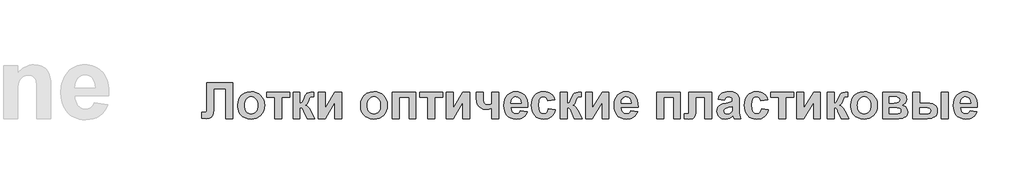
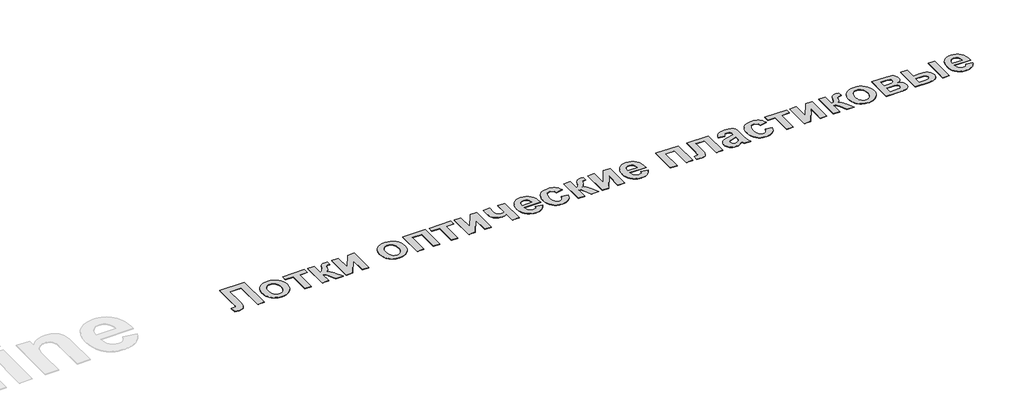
# One storey, part 11 of 11: 1 proxy.
"""IFC4 building model written with IfcOpenShell, lengths in millimetres."""

from ifc_helpers import new_model, si_unit, origin, origin_with_axes, place, context, project, spatial, polyline, outline, extrude, element, save

model = new_model("IFC4")

# Units and contexts
model_context = context("Model", 3, world=origin())
ifc_project = project(units=[si_unit("LENGTHUNIT", "METRE", prefix="MILLI")], contexts=[model_context])

# Site, building, storey
site = spatial("IfcSite", under=ifc_project)
building = spatial("IfcBuilding", under=site)
storey = spatial("IfcBuildingStorey", under=building, Name="Этаж 01", Elevation=0.0)

# Proxy
placement = place(None, origin())
element("IfcBuildingElementProxy", 1, Name="АБН_Большая надпись_500", ObjectType="АБН_Большая надпись_500", at=placement, inside=storey, context=model_context, shape_type="SweptSolid", body=[
    extrude(outline(polyline([(-12787.100601, 15291.6592573), (-12422.5957236, 15291.6592573), (-12422.5957236, 14781.5295573), (-12519.7632855, 14781.5295573), (-12519.7632855, 15202.5889922), (-12689.8065188, 15202.5889922), (-12689.8065188, 14987.7575858), (-12691.2931319, 14909.3624679), (-12695.7529711, 14858.896698), (-12705.9852974, 14826.4126205), (-12724.7893715, 14801.9625797), (-12737.9672476, 14793.0231324), (-12754.410928, 14786.6378129), (-12797.0957017, 14781.5295573), (-12859.8497521, 14785.1986449), (-12859.8497521, 14870.5998224), (-12838.3413074, 14870.3467818), (-12812.8632895, 14872.4659962), (-12797.4120024, 14878.8236394), (-12789.5835611, 14893.53162), (-12787.100601, 14920.7018465), (-12787.100601, 15006.4825847), (-12787.100601, 15291.6592573)])), origin_with_axes(), (0.0, 0.0, 1.0), 5.0),
    extrude(outline(polyline([(-12349.7200521, 14973.0812353), (-12343.7261547, 15021.2696404), (-12325.7444623, 15067.9081723), (-12312.5112336, 15089.4838309), (-12296.7871372, 15108.3472114), (-12278.5721731, 15124.4983137), (-12257.8663413, 15137.9371378), (-12235.2745668, 15148.5094873), (-12211.4017747, 15156.0611655), (-12159.8131375, 15162.1025081), (-12119.8287807, 15158.6785534), (-12083.6321242, 15148.4066896), (-12051.2231682, 15131.2869165), (-12022.6019124, 15107.3192342), (-11999.2154326, 15078.116776), (-11982.5108041, 15045.2926753), (-11972.4880271, 15008.8469321), (-11969.1471014, 14968.7795464), (-11972.5236109, 14928.3919062), (-11982.6531394, 14891.618001), (-11999.535687, 14858.4578309), (-12023.1712536, 14828.9113957), (-12051.9229834, 14804.639274), (-12084.1540203, 14787.3020443), (-12119.8643645, 14776.8997064), (-12159.054016, 14773.4322604), (-12208.6025139, 14779.2047474), (-12255.7787569, 14796.5222084), (-12277.3979069, 14809.415414), (-12296.2652411, 14825.0050826), (-12312.3807596, 14843.2912144), (-12325.7444623, 14864.2738092), (-12336.2337829, 14887.8223931), (-12343.7261547, 14913.8064921), (-12348.2215778, 14942.2261062), (-12349.7200521, 14973.0812353)]), holes=[polyline([(-12252.5524902, 14967.7673843), (-12250.872143, 14940.071308), (-12245.8311013, 14915.8150013), (-12237.4293651, 14894.9984643), (-12225.6669344, 14877.6216969), (-12211.4373586, 14863.9219247), (-12195.634187, 14854.1363731), (-12178.2574196, 14848.2650422), (-12159.3070565, 14846.3079319), (-12140.3646009, 14848.2650422), (-12123.0115561, 14854.1363731), (-12107.2479221, 14863.9219247), (-12093.0736989, 14877.6216969), (-12081.3666208, 14895.0459094), (-12073.0044222, 14916.0047817), (-12067.987103, 14940.4983138), (-12066.3146633, 14968.5265058), (-12067.987103, 14995.8904664), (-12073.0044222, 15019.9095476), (-12081.3666208, 15040.5837493), (-12093.0736989, 15057.9130716), (-12107.2479221, 15071.6128438), (-12123.0115561, 15081.3983954), (-12140.3646009, 15087.2697263), (-12159.3070565, 15089.2268366), (-12178.2574196, 15087.2697263), (-12195.634187, 15081.3983954), (-12211.4373586, 15071.6128438), (-12225.6669344, 15057.9130716), (-12237.4293651, 15040.5363042), (-12245.8311013, 15019.7197672), (-12250.872143, 14995.4634605), (-12252.5524902, 14967.7673843)])]), origin_with_axes(), (0.0, 0.0, 1.0), 5.0),
    extrude(outline(polyline([(-11936.7579141, 15154.0052112), (-11612.8660411, 15154.0052112), (-11612.8660411, 15081.1295398), (-11726.2281966, 15081.1295398), (-11726.2281966, 14781.5295573), (-11823.3957585, 14781.5295573), (-11823.3957585, 15081.1295398), (-11936.7579141, 15081.1295398), (-11936.7579141, 15154.0052112)])), origin_with_axes(), (0.0, 0.0, 1.0), 5.0),
    extrude(outline(polyline([(-11564.2822601, 15154.0052112), (-11467.1146982, 15154.0052112), (-11467.1146982, 15000.1565716), (-11446.6026006, 15005.2964572), (-11433.1440076, 15015.1492227), (-11422.1525598, 15034.5858981), (-11409.0418975, 15068.4775135), (-11389.6842973, 15113.4238369), (-11379.3412658, 15128.5192858), (-11368.5554134, 15138.6962594), (-11343.1248406, 15150.1779733), (-11310.8621735, 15154.0052112), (-11272.7795744, 15152.3604478), (-11272.4000136, 15089.2268366), (-11303.5872584, 15087.3290327), (-11320.9837946, 15081.6356209), (-11332.0543176, 15065.9471083), (-11344.0104824, 15034.5700831), (-11353.2859992, 15010.6656609), (-11364.4118748, 14991.8378643), (-11377.3881093, 14978.0866932), (-11392.2147026, 14969.4121477), (-11370.1369167, 14959.6305498), (-11349.8304145, 14943.0643029), (-11331.295196, 14919.7134069), (-11314.5312612, 14889.5778618), (-11310.7356533, 14882.3662068), (-11256.5849808, 14781.5295573), (-11365.7719676, 14781.5295573), (-11411.8253433, 14885.7822539), (-11425.0467108, 14911.7505379), (-11436.3702743, 14926.3952583), (-11449.2437111, 14933.1324623), (-11467.1146982, 14935.378197), (-11467.1146982, 14781.5295573), (-11564.2822601, 14781.5295573), (-11564.2822601, 15154.0052112)])), origin_with_axes(), (0.0, 0.0, 1.0), 5.0),
    extrude(outline(polyline([(-11208.0011998, 15154.0052112), (-11110.8336379, 15154.0052112), (-11110.8336379, 14924.8770151), (-10973.1795919, 15154.0052112), (-10876.01203, 15154.0052112), (-10876.01203, 14781.5295573), (-10973.1795919, 14781.5295573), (-10973.1795919, 15010.7842736), (-11110.8336379, 14781.5295573), (-11208.0011998, 14781.5295573), (-11208.0011998, 15154.0052112)])), origin_with_axes(), (0.0, 0.0, 1.0), 5.0),
    extrude(outline(polyline([(-10608.8012348, 14973.0812353), (-10602.8073373, 15021.2696404), (-10584.8256449, 15067.9081723), (-10571.5924162, 15089.4838309), (-10555.8683198, 15108.3472114), (-10537.6533557, 15124.4983137), (-10516.9475239, 15137.9371378), (-10494.3557494, 15148.5094873), (-10470.4829573, 15156.0611655), (-10418.8943202, 15162.1025081), (-10378.9099633, 15158.6785534), (-10342.7133069, 15148.4066896), (-10310.3043508, 15131.2869165), (-10281.683095, 15107.3192342), (-10258.2966152, 15078.116776), (-10241.5919867, 15045.2926753), (-10231.5692097, 15008.8469321), (-10228.228284, 14968.7795464), (-10231.6047935, 14928.3919062), (-10241.734322, 14891.618001), (-10258.6168696, 14858.4578309), (-10282.2524362, 14828.9113957), (-10311.004166, 14804.639274), (-10343.2352029, 14787.3020443), (-10378.9455471, 14776.8997064), (-10418.1351986, 14773.4322604), (-10467.6836965, 14779.2047474), (-10514.8599396, 14796.5222084), (-10536.4790895, 14809.415414), (-10555.3464237, 14825.0050826), (-10571.4619422, 14843.2912144), (-10584.8256449, 14864.2738092), (-10595.3149655, 14887.8223931), (-10602.8073373, 14913.8064921), (-10607.3027604, 14942.2261062), (-10608.8012348, 14973.0812353)]), holes=[polyline([(-10511.6336729, 14967.7673843), (-10509.9533256, 14940.071308), (-10504.9122839, 14915.8150013), (-10496.5105477, 14894.9984643), (-10484.748117, 14877.6216969), (-10470.5185412, 14863.9219247), (-10454.7153696, 14854.1363731), (-10437.3386022, 14848.2650422), (-10418.3882391, 14846.3079319), (-10399.4457835, 14848.2650422), (-10382.0927387, 14854.1363731), (-10366.3291047, 14863.9219247), (-10352.1548815, 14877.6216969), (-10340.4478034, 14895.0459094), (-10332.0856048, 14916.0047817), (-10327.0682856, 14940.4983138), (-10325.3958459, 14968.5265058), (-10327.0682856, 14995.8904664), (-10332.0856048, 15019.9095476), (-10340.4478034, 15040.5837493), (-10352.1548815, 15057.9130716), (-10366.3291047, 15071.6128438), (-10382.0927387, 15081.3983954), (-10399.4457835, 15087.2697263), (-10418.3882391, 15089.2268366), (-10437.3386022, 15087.2697263), (-10454.7153696, 15081.3983954), (-10470.5185412, 15071.6128438), (-10484.748117, 15057.9130716), (-10496.5105477, 15040.5363042), (-10504.9122839, 15019.7197672), (-10509.9533256, 14995.4634605), (-10511.6336729, 14967.7673843)])]), origin_with_axes(), (0.0, 0.0, 1.0), 5.0),
    extrude(outline(polyline([(-10155.3526125, 15154.0052112), (-9823.3634427, 15154.0052112), (-9823.3634427, 14781.5295573), (-9920.5310046, 14781.5295573), (-9920.5310046, 15081.1295398), (-10058.1850506, 15081.1295398), (-10058.1850506, 14781.5295573), (-10155.3526125, 14781.5295573), (-10155.3526125, 15154.0052112)])), origin_with_axes(), (0.0, 0.0, 1.0), 5.0),
    extrude(outline(polyline([(-9766.6823649, 15154.0052112), (-9442.7904919, 15154.0052112), (-9442.7904919, 15081.1295398), (-9556.1526475, 15081.1295398), (-9556.1526475, 14781.5295573), (-9653.3202094, 14781.5295573), (-9653.3202094, 15081.1295398), (-9766.6823649, 15081.1295398), (-9766.6823649, 15154.0052112)])), origin_with_axes(), (0.0, 0.0, 1.0), 5.0),
    extrude(outline(polyline([(-9394.206711, 15154.0052112), (-9297.0391491, 15154.0052112), (-9297.0391491, 14924.8770151), (-9159.3851031, 15154.0052112), (-9062.2175412, 15154.0052112), (-9062.2175412, 14781.5295573), (-9159.3851031, 14781.5295573), (-9159.3851031, 15010.7842736), (-9297.0391491, 14781.5295573), (-9394.206711, 14781.5295573), (-9394.206711, 15154.0052112)])), origin_with_axes(), (0.0, 0.0, 1.0), 5.0),
    extrude(outline(polyline([(-8965.0499793, 15154.0052112), (-8867.8824174, 15154.0052112), (-8867.8824174, 15061.1393383), (-8866.6330298, 15033.3365105), (-8862.884867, 15013.6942397), (-8855.0722407, 14999.2392996), (-8841.6294628, 14986.9984642), (-8823.2365796, 14978.6481269), (-8800.5736375, 14975.8646811), (-8774.9532843, 14978.9644275), (-8746.422965, 14988.2636668), (-8746.422965, 15154.0052112), (-8649.2554031, 15154.0052112), (-8649.2554031, 14781.5295573), (-8746.422965, 14781.5295573), (-8746.422965, 14926.268738), (-8794.2476244, 14914.8819144), (-8829.1672169, 14911.0863065), (-8869.653701, 14916.0205967), (-8905.8384962, 14930.8234675), (-8934.5111508, 14953.3440743), (-8952.4612131, 14981.4315726), (-8961.9027877, 15017.3949574), (-8965.0499793, 15063.5432233), (-8965.0499793, 15154.0052112)])), origin_with_axes(), (0.0, 0.0, 1.0), 5.0),
    extrude(outline(polyline([(-8341.5581237, 14894.8917128), (-8244.3905618, 14878.6971192), (-8254.8917437, 14854.4882576), (-8268.049851, 14833.35542), (-8283.8648839, 14815.2986062), (-8302.3368422, 14800.3178163), (-8323.3787435, 14788.5553856), (-8346.9036048, 14780.1536494), (-8372.9114264, 14775.1126077), (-8401.4022081, 14773.4322604), (-8445.407537, 14777.3939262), (-8483.2924482, 14789.2789234), (-8515.0569417, 14809.087252), (-8540.7010175, 14836.8189122), (-8556.310455, 14863.8547108), (-8567.4600531, 14894.2274814), (-8574.149812, 14927.937224), (-8576.3797317, 14964.9839385), (-8573.4223205, 15008.6650592), (-8564.5500871, 15047.3486296), (-8549.7630314, 15081.0346496), (-8529.0611533, 15109.7231192), (-8503.8361759, 15132.6391018), (-8475.479822, 15149.0076608), (-8443.9920916, 15158.8287963), (-8409.3729846, 15162.1025081), (-8370.9029172, 15158.7418136), (-8336.7187237, 15148.6597301), (-8306.8204041, 15131.8562577), (-8281.2079583, 15108.3313963), (-8260.7986584, 15077.8637355), (-8246.5097762, 15040.2318648), (-8238.3413118, 14995.4357842), (-8236.293265, 14943.4754938), (-8479.2121698, 14943.4754938), (-8472.9810468, 14902.5461887), (-8465.9512647, 14885.9245892), (-8456.3120022, 14871.865025), (-8444.6958605, 14860.6837967), (-8431.7354411, 14852.6972052), (-8417.4307439, 14847.9052502), (-8401.7817689, 14846.3079319), (-8381.3803765, 14849.1862679), (-8364.4582913, 14857.8212758), (-8351.1420337, 14872.845557), (-8341.5581237, 14894.8917128)]), holes=[polyline([(-8333.4608269, 15000.1565716), (-8339.3756492, 15038.5712864), (-8346.0100555, 15053.8525619), (-8355.0957919, 15066.5164494), (-8377.9326993, 15083.5492398), (-8405.197816, 15089.2268366), (-8420.2695423, 15087.732316), (-8433.9811758, 15083.2487542), (-8446.3327164, 15075.7761512), (-8457.3241643, 15065.3145069), (-8466.2754729, 15052.2275672), (-8472.6331161, 15037.0055981), (-8477.5674063, 15000.1565716), (-8333.4608269, 15000.1565716)])]), origin_with_axes(), (0.0, 0.0, 1.0), 5.0),
    extrude(outline(polyline([(-7855.7203142, 15048.7403525), (-7952.8878761, 15032.5457589), (-7960.3367566, 15057.2646552), (-7973.5739391, 15074.9933071), (-7992.1249727, 15085.6684542), (-8015.5154063, 15089.2268366), (-8031.7890751, 15087.5583507), (-8046.3230903, 15082.5528928), (-8059.1174519, 15074.2104629), (-8070.1721598, 15062.5310612), (-8079.0839309, 15046.9453463), (-8085.4494816, 15026.8839771), (-8090.5419222, 14973.3342758), (-8085.2438862, 14913.9646425), (-8078.6213411, 14891.9422092), (-8069.3497781, 14875.0280316), (-8057.8482955, 14862.4629879), (-8044.5359916, 14853.4879568), (-8029.4128664, 14848.1029381), (-8012.47892, 14846.3079319), (-7988.2028445, 14850.4040254), (-7968.7661691, 14862.6923059), (-7954.263784, 14885.0073173), (-7944.7905793, 14919.1836033), (-7847.6230174, 14902.9890097), (-7856.5782798, 14872.8811408), (-7868.8942366, 14846.7033077), (-7884.5708879, 14824.4555102), (-7903.6082337, 14806.1377484), (-7926.0853492, 14791.8290974), (-7952.0813095, 14781.6086324), (-7981.5961145, 14775.4763534), (-8014.6297644, 14773.4322604), (-8052.1627912, 14776.6506196), (-8085.6867071, 14786.3056972), (-8115.2015121, 14802.3974931), (-8140.7072064, 14824.9260074), (-8161.2707029, 14853.1400261), (-8175.9589146, 14886.2883349), (-8184.7718417, 14924.3709341), (-8187.7094841, 14967.3878235), (-8184.7916105, 15010.8910251), (-8176.0379898, 15049.2938787), (-8161.448622, 15082.5963841), (-8141.0235071, 15110.7985415), (-8115.6166568, 15133.2440268), (-8086.0820829, 15149.2765164), (-8052.4197854, 15158.8960101), (-8014.6297644, 15162.1025081), (-7983.7192827, 15160.3509932), (-7956.1457729, 15155.0964485), (-7931.909235, 15146.338874), (-7911.0096691, 15134.0782698), (-7893.1307745, 15118.2355607), (-7877.9562504, 15098.7316714), (-7865.486097, 15075.566602), (-7855.7203142, 15048.7403525)])), origin_with_axes(), (0.0, 0.0, 1.0), 5.0),
    extrude(outline(polyline([(-7774.747346, 15154.0052112), (-7677.5797841, 15154.0052112), (-7677.5797841, 15000.1565716), (-7657.0676865, 15005.2964572), (-7643.6090935, 15015.1492227), (-7632.6176457, 15034.5858981), (-7619.5069834, 15068.4775135), (-7600.1493832, 15113.4238369), (-7589.8063517, 15128.5192858), (-7579.0204993, 15138.6962594), (-7553.5899264, 15150.1779733), (-7521.3272594, 15154.0052112), (-7483.2446603, 15152.3604478), (-7482.8650995, 15089.2268366), (-7514.0523443, 15087.3290327), (-7531.4488804, 15081.6356209), (-7542.5194034, 15065.9471083), (-7554.4755683, 15034.5700831), (-7563.7510851, 15010.6656609), (-7574.8769607, 14991.8378643), (-7587.8531951, 14978.0866932), (-7602.6797884, 14969.4121477), (-7580.6020026, 14959.6305498), (-7560.2955004, 14943.0643029), (-7541.7602819, 14919.7134069), (-7524.996347, 14889.5778618), (-7521.2007391, 14882.3662068), (-7467.0500666, 14781.5295573), (-7576.2370535, 14781.5295573), (-7622.2904292, 14885.7822539), (-7635.5117967, 14911.7505379), (-7646.8353602, 14926.3952583), (-7659.7087969, 14933.1324623), (-7677.5797841, 14935.378197), (-7677.5797841, 14781.5295573), (-7774.747346, 14781.5295573), (-7774.747346, 15154.0052112)])), origin_with_axes(), (0.0, 0.0, 1.0), 5.0),
    extrude(outline(polyline([(-7418.4662857, 15154.0052112), (-7321.2987238, 15154.0052112), (-7321.2987238, 14924.8770151), (-7183.6446778, 15154.0052112), (-7086.4771159, 15154.0052112), (-7086.4771159, 14781.5295573), (-7183.6446778, 14781.5295573), (-7183.6446778, 15010.7842736), (-7321.2987238, 14781.5295573), (-7418.4662857, 14781.5295573), (-7418.4662857, 15154.0052112)])), origin_with_axes(), (0.0, 0.0, 1.0), 5.0),
    extrude(outline(polyline([(-6778.7798365, 14894.8917128), (-6681.6122746, 14878.6971192), (-6692.1134564, 14854.4882576), (-6705.2715638, 14833.35542), (-6721.0865966, 14815.2986062), (-6739.558555, 14800.3178163), (-6760.6004562, 14788.5553856), (-6784.1253176, 14780.1536494), (-6810.1331391, 14775.1126077), (-6838.6239208, 14773.4322604), (-6882.6292498, 14777.3939262), (-6920.514161, 14789.2789234), (-6952.2786545, 14809.087252), (-6977.9227303, 14836.8189122), (-6993.5321677, 14863.8547108), (-7004.6817659, 14894.2274814), (-7011.3715248, 14927.937224), (-7013.6014444, 14964.9839385), (-7010.6440333, 15008.6650592), (-7001.7717998, 15047.3486296), (-6986.9847441, 15081.0346496), (-6966.2828661, 15109.7231192), (-6941.0578887, 15132.6391018), (-6912.7015348, 15149.0076608), (-6881.2138043, 15158.8287963), (-6846.5946974, 15162.1025081), (-6808.12463, 15158.7418136), (-6773.9404364, 15148.6597301), (-6744.0421168, 15131.8562577), (-6718.4296711, 15108.3313963), (-6698.0203712, 15077.8637355), (-6683.731489, 15040.2318648), (-6675.5630245, 14995.4357842), (-6673.5149778, 14943.4754938), (-6916.4338825, 14943.4754938), (-6910.2027596, 14902.5461887), (-6903.1729775, 14885.9245892), (-6893.5337149, 14871.865025), (-6881.9175733, 14860.6837967), (-6868.9571539, 14852.6972052), (-6854.6524567, 14847.9052502), (-6839.0034816, 14846.3079319), (-6818.6020892, 14849.1862679), (-6801.6800041, 14857.8212758), (-6788.3637464, 14872.845557), (-6778.7798365, 14894.8917128)]), holes=[polyline([(-6770.6825397, 15000.1565716), (-6776.597362, 15038.5712864), (-6783.2317683, 15053.8525619), (-6792.3175046, 15066.5164494), (-6815.1544121, 15083.5492398), (-6842.4195287, 15089.2268366), (-6857.4912551, 15087.732316), (-6871.2028885, 15083.2487542), (-6883.5544292, 15075.7761512), (-6894.545877, 15065.3145069), (-6903.4971856, 15052.2275672), (-6909.8548289, 15037.0055981), (-6914.7891191, 15000.1565716), (-6770.6825397, 15000.1565716)])]), origin_with_axes(), (0.0, 0.0, 1.0), 5.0),
    extrude(outline(polyline([(-6406.3041825, 15154.0052112), (-6074.3150127, 15154.0052112), (-6074.3150127, 14781.5295573), (-6171.4825746, 14781.5295573), (-6171.4825746, 15081.1295398), (-6309.1366206, 15081.1295398), (-6309.1366206, 14781.5295573), (-6406.3041825, 14781.5295573), (-6406.3041825, 15154.0052112)])), origin_with_axes(), (0.0, 0.0, 1.0), 5.0),
    extrude(outline(polyline([(-5952.8555603, 15154.0052112), (-5628.9636873, 15154.0052112), (-5628.9636873, 14781.5295573), (-5726.1312492, 14781.5295573), (-5726.1312492, 15081.1295398), (-5855.6879984, 15081.1295398), (-5855.6879984, 14908.8089417), (-5859.2621959, 14852.9186156), (-5869.9847882, 14816.5756701), (-5885.0406994, 14794.5769594), (-5901.6148539, 14781.7193377), (-5924.2303509, 14775.5040298), (-5957.4102898, 14773.4322604), (-6017.6339349, 14779.3787128), (-6017.6339349, 14848.0792156), (-6002.1984629, 14847.320094), (-5980.0574169, 14846.3079319), (-5964.9540605, 14849.6607188), (-5957.0939892, 14859.7190797), (-5953.9151675, 14885.0863925), (-5952.8555603, 14934.3660348), (-5952.8555603, 15154.0052112)])), origin_with_axes(), (0.0, 0.0, 1.0), 5.0),
    extrude(outline(polyline([(-5450.8231572, 15040.6430557), (-5539.8934223, 15056.8376493), (-5531.5233161, 15081.9202914), (-5520.5832671, 15103.5236263), (-5507.0732753, 15121.647654), (-5490.9933407, 15136.2923744), (-5471.528989, 15147.5843079), (-5447.865746, 15155.6499746), (-5420.0036119, 15160.4893747), (-5387.9425865, 15162.1025081), (-5333.760284, 15158.1961949), (-5295.4562744, 15146.4772556), (-5269.5828806, 15128.7644188), (-5252.6924255, 15106.8764133), (-5243.3931862, 15072.8582776), (-5240.2934397, 15018.7550502), (-5240.2934397, 14903.8746515), (-5239.0124221, 14861.2373229), (-5235.1693691, 14831.5050611), (-5227.8153788, 14807.371321), (-5216.0015493, 14781.5295573), (-5313.1691112, 14781.5295573), (-5322.2785701, 14812.4005014), (-5325.6946172, 14824.6729669), (-5350.8405194, 14802.2946954), (-5377.6944452, 14786.2740671), (-5406.3196547, 14776.6427121), (-5436.779408, 14773.4322604), (-5463.0205013, 14775.3814633), (-5486.327906, 14781.2290717), (-5506.701622, 14790.9750857), (-5524.1416495, 14804.6195053), (-5538.1181848, 14821.237151), (-5548.1014243, 14839.9028436), (-5554.091368, 14860.6165829), (-5556.0880159, 14883.3783689), (-5552.5296335, 14913.1738908), (-5541.8544863, 14939.5533656), (-5524.7584358, 14961.3464809), (-5501.9373434, 14977.3829242), (-5470.5919483, 14989.6870198), (-5427.9229896, 15000.2830918), (-5372.6652648, 15012.7769678), (-5337.4610016, 15024.448462), (-5337.4610016, 15034.6966033), (-5340.4816729, 15059.9373958), (-5349.5436867, 15076.7013306), (-5366.9560379, 15086.0954601), (-5395.0277213, 15089.2268366), (-5415.1760731, 15086.538281), (-5430.3268746, 15078.4726143), (-5441.7769584, 15063.6381135), (-5450.8231572, 15040.6430557)]), holes=[polyline([(-5337.4610016, 14951.5727906), (-5392.2442755, 14938.0983826), (-5423.2417399, 14930.3648315), (-5441.3341375, 14922.7261707), (-5454.5238749, 14908.9038319), (-5458.920454, 14891.7287063), (-5455.3937017, 14874.5061355), (-5444.8134447, 14859.7823399), (-5428.7928164, 14849.6765339), (-5408.9449502, 14846.3079319), (-5385.1275107, 14850.23006), (-5362.5120137, 14861.9964445), (-5348.9110854, 14875.2178119), (-5341.003569, 14891.0961049), (-5337.4610016, 14933.9864741), (-5337.4610016, 14951.5727906)])]), origin_with_axes(), (0.0, 0.0, 1.0), 5.0),
    extrude(outline(polyline([(-4835.4285985, 15048.7403525), (-4932.5961604, 15032.5457589), (-4940.0450409, 15057.2646552), (-4953.2822234, 15074.9933071), (-4971.8332569, 15085.6684542), (-4995.2236905, 15089.2268366), (-5011.4973593, 15087.5583507), (-5026.0313745, 15082.5528928), (-5038.8257361, 15074.2104629), (-5049.8804441, 15062.5310612), (-5058.7922151, 15046.9453463), (-5065.1577658, 15026.8839771), (-5070.2502064, 14973.3342758), (-5064.9521704, 14913.9646425), (-5058.3296254, 14891.9422092), (-5049.0580624, 14875.0280316), (-5037.5565797, 14862.4629879), (-5024.2442758, 14853.4879568), (-5009.1211506, 14848.1029381), (-4992.1872042, 14846.3079319), (-4967.9111288, 14850.4040254), (-4948.4744534, 14862.6923059), (-4933.9720682, 14885.0073173), (-4924.4988636, 14919.1836033), (-4827.3313017, 14902.9890097), (-4836.286564, 14872.8811408), (-4848.6025209, 14846.7033077), (-4864.2791722, 14824.4555102), (-4883.316518, 14806.1377484), (-4905.7936334, 14791.8290974), (-4931.7895937, 14781.6086324), (-4961.3043988, 14775.4763534), (-4994.3380487, 14773.4322604), (-5031.8710754, 14776.6506196), (-5065.3949913, 14786.3056972), (-5094.9097964, 14802.3974931), (-5120.4154907, 14824.9260074), (-5140.9789871, 14853.1400261), (-5155.6671989, 14886.2883349), (-5164.480126, 14924.3709341), (-5167.4177683, 14967.3878235), (-5164.4998948, 15010.8910251), (-5155.7462741, 15049.2938787), (-5141.1569062, 15082.5963841), (-5120.7317913, 15110.7985415), (-5095.324941, 15133.2440268), (-5065.7903671, 15149.2765164), (-5032.1280697, 15158.8960101), (-4994.3380487, 15162.1025081), (-4963.427567, 15160.3509932), (-4935.8540572, 15155.0964485), (-4911.6175193, 15146.338874), (-4890.7179534, 15134.0782698), (-4872.8390587, 15118.2355607), (-4857.6645347, 15098.7316714), (-4845.1943813, 15075.566602), (-4835.4285985, 15048.7403525)])), origin_with_axes(), (0.0, 0.0, 1.0), 5.0),
    extrude(outline(polyline([(-4794.9421144, 15154.0052112), (-4471.0502414, 15154.0052112), (-4471.0502414, 15081.1295398), (-4584.4123969, 15081.1295398), (-4584.4123969, 14781.5295573), (-4681.5799588, 14781.5295573), (-4681.5799588, 15081.1295398), (-4794.9421144, 15081.1295398), (-4794.9421144, 15154.0052112)])), origin_with_axes(), (0.0, 0.0, 1.0), 5.0),
    extrude(outline(polyline([(-4422.4664604, 15154.0052112), (-4325.2988985, 15154.0052112), (-4325.2988985, 14924.8770151), (-4187.6448525, 15154.0052112), (-4090.4772906, 15154.0052112), (-4090.4772906, 14781.5295573), (-4187.6448525, 14781.5295573), (-4187.6448525, 15010.7842736), (-4325.2988985, 14781.5295573), (-4422.4664604, 14781.5295573), (-4422.4664604, 15154.0052112)])), origin_with_axes(), (0.0, 0.0, 1.0), 5.0),
    extrude(outline(polyline([(-3993.3097287, 15154.0052112), (-3896.1421668, 15154.0052112), (-3896.1421668, 15000.1565716), (-3875.6300692, 15005.2964572), (-3862.1714762, 15015.1492227), (-3851.1800284, 15034.5858981), (-3838.0693661, 15068.4775135), (-3818.7117659, 15113.4238369), (-3808.3687344, 15128.5192858), (-3797.582882, 15138.6962594), (-3772.1523091, 15150.1779733), (-3739.8896421, 15154.0052112), (-3701.807043, 15152.3604478), (-3701.4274822, 15089.2268366), (-3732.614727, 15087.3290327), (-3750.0112631, 15081.6356209), (-3761.0817861, 15065.9471083), (-3773.037951, 15034.5700831), (-3782.3134678, 15010.6656609), (-3793.4393434, 14991.8378643), (-3806.4155778, 14978.0866932), (-3821.2421711, 14969.4121477), (-3799.1643853, 14959.6305498), (-3778.8578831, 14943.0643029), (-3760.3226646, 14919.7134069), (-3743.5587297, 14889.5778618), (-3739.7631218, 14882.3662068), (-3685.6124493, 14781.5295573), (-3794.7994362, 14781.5295573), (-3840.8528119, 14885.7822539), (-3854.0741794, 14911.7505379), (-3865.3977429, 14926.3952583), (-3878.2711796, 14933.1324623), (-3896.1421668, 14935.378197), (-3896.1421668, 14781.5295573), (-3993.3097287, 14781.5295573), (-3993.3097287, 15154.0052112)])), origin_with_axes(), (0.0, 0.0, 1.0), 5.0),
    extrude(outline(polyline([(-3661.3205589, 14973.0812353), (-3655.3266614, 15021.2696404), (-3637.344969, 15067.9081723), (-3624.1117403, 15089.4838309), (-3608.3876439, 15108.3472114), (-3590.1726798, 15124.4983137), (-3569.466848, 15137.9371378), (-3546.8750736, 15148.5094873), (-3523.0022814, 15156.0611655), (-3471.4136443, 15162.1025081), (-3431.4292874, 15158.6785534), (-3395.232631, 15148.4066896), (-3362.8236749, 15131.2869165), (-3334.2024191, 15107.3192342), (-3310.8159393, 15078.116776), (-3294.1113108, 15045.2926753), (-3284.0885338, 15008.8469321), (-3280.7476081, 14968.7795464), (-3284.1241176, 14928.3919062), (-3294.2536461, 14891.618001), (-3311.1361937, 14858.4578309), (-3334.7717603, 14828.9113957), (-3363.5234901, 14804.639274), (-3395.754527, 14787.3020443), (-3431.4648712, 14776.8997064), (-3470.6545227, 14773.4322604), (-3520.2030206, 14779.2047474), (-3567.3792637, 14796.5222084), (-3588.9984136, 14809.415414), (-3607.8657478, 14825.0050826), (-3623.9812663, 14843.2912144), (-3637.344969, 14864.2738092), (-3647.8342896, 14887.8223931), (-3655.3266614, 14913.8064921), (-3659.8220845, 14942.2261062), (-3661.3205589, 14973.0812353)]), holes=[polyline([(-3564.152997, 14967.7673843), (-3562.4726497, 14940.071308), (-3557.431608, 14915.8150013), (-3549.0298718, 14894.9984643), (-3537.2674411, 14877.6216969), (-3523.0378653, 14863.9219247), (-3507.2346937, 14854.1363731), (-3489.8579263, 14848.2650422), (-3470.9075632, 14846.3079319), (-3451.9651076, 14848.2650422), (-3434.6120628, 14854.1363731), (-3418.8484288, 14863.9219247), (-3404.6742056, 14877.6216969), (-3392.9671275, 14895.0459094), (-3384.6049289, 14916.0047817), (-3379.5876097, 14940.4983138), (-3377.91517, 14968.5265058), (-3379.5876097, 14995.8904664), (-3384.6049289, 15019.9095476), (-3392.9671275, 15040.5837493), (-3404.6742056, 15057.9130716), (-3418.8484288, 15071.6128438), (-3434.6120628, 15081.3983954), (-3451.9651076, 15087.2697263), (-3470.9075632, 15089.2268366), (-3489.8579263, 15087.2697263), (-3507.2346937, 15081.3983954), (-3523.0378653, 15071.6128438), (-3537.2674411, 15057.9130716), (-3549.0298718, 15040.5363042), (-3557.431608, 15019.7197672), (-3562.4726497, 14995.4634605), (-3564.152997, 14967.7673843)])]), origin_with_axes(), (0.0, 0.0, 1.0), 5.0),
    extrude(outline(polyline([(-3207.8719367, 15154.0052112), (-2997.0891787, 15154.0052112), (-2966.6808242, 15152.4790606), (-2940.3606558, 15147.9006085), (-2918.1286734, 15140.2698552), (-2899.9848769, 15129.5868005), (-2885.8976364, 15115.8356294), (-2875.8353217, 15099.0005269), (-2869.7979329, 15079.081493), (-2867.78547, 15056.0785277), (-2872.2136792, 15026.6151215), (-2885.4983068, 15001.2319938), (-2905.4885083, 14981.7953184), (-2930.0334393, 14970.1712692), (-2895.4775925, 14956.7126763), (-2881.9834158, 14946.9113097), (-2871.0117367, 14935.0618963), (-2856.4460914, 14908.0972653), (-2851.5908763, 14878.6971192), (-2853.5598479, 14858.0822238), (-2859.4667627, 14839.5074677), (-2869.3116207, 14822.9728509), (-2883.0944218, 14808.4783733), (-2900.7281834, 14796.6882663), (-2922.1259229, 14788.2667613), (-2947.2876402, 14783.2138583), (-2976.2133353, 14781.5295573), (-3207.8719367, 14781.5295573), (-3207.8719367, 15154.0052112)]), holes=[polyline([(-3110.7043748, 15000.1565716), (-3049.215527, 15000.1565716), (-3010.8482573, 15002.9716474), (-2984.8167132, 15011.4168749), (-2969.9189522, 15025.9350751), (-2964.9530319, 15046.9690688), (-2969.5868365, 15066.4848194), (-2983.4882504, 15079.4847764), (-3009.1876788, 15086.7913216), (-3049.215527, 15089.2268366), (-3110.7043748, 15089.2268366), (-3110.7043748, 15000.1565716)]), polyline([(-3110.7043748, 14846.3079319), (-3031.1231294, 14846.3079319), (-2994.0210623, 14848.6960018), (-2968.4955993, 14855.8602117), (-2953.6927285, 14869.2239145), (-2948.7584382, 14890.2104631), (-2950.1699299, 14902.0559227), (-2954.404405, 14911.9086882), (-2961.4618634, 14919.7687595), (-2971.3423052, 14925.6361367), (-3004.5696892, 14932.9426819), (-3059.0841075, 14935.378197), (-3110.7043748, 14935.378197), (-3110.7043748, 14846.3079319)])]), origin_with_axes(), (0.0, 0.0, 1.0), 5.0),
    extrude(outline(polyline([(-2778.7152049, 15154.0052112), (-2681.547643, 15154.0052112), (-2681.547643, 15000.1565716), (-2586.4044053, 15000.1565716), (-2536.9982427, 14998.0848022), (-2500.8767076, 14991.8694943), (-2473.6590361, 14978.711387), (-2450.9644639, 14955.8112194), (-2435.6396971, 14925.5570615), (-2430.5314414, 14890.3369834), (-2432.7811299, 14864.8866417), (-2439.5301951, 14842.8128096), (-2450.7786373, 14824.115487), (-2466.5264562, 14808.7946739), (-2486.7736521, 14796.8661854), (-2511.5202247, 14788.3458364), (-2540.7661742, 14783.2336271), (-2574.5115006, 14781.5295573), (-2778.7152049, 14781.5295573), (-2778.7152049, 15154.0052112)]), holes=[polyline([(-2681.547643, 14846.3079319), (-2593.2364995, 14846.3079319), (-2563.5358678, 14848.9490424), (-2543.2609957, 14856.8723738), (-2531.5895014, 14870.7421576), (-2527.6990033, 14891.2226252), (-2532.7281838, 14912.5571045), (-2547.8157251, 14925.9524374), (-2575.9348536, 14933.0217571), (-2620.0587953, 14935.378197), (-2681.547643, 14935.378197), (-2681.547643, 14846.3079319)])]), origin_with_axes(), (0.0, 0.0, 1.0), 5.0),
    extrude(outline(polyline([(-2373.8503637, 15154.0052112), (-2276.6828018, 15154.0052112), (-2276.6828018, 14781.5295573), (-2373.8503637, 14781.5295573), (-2373.8503637, 15154.0052112)])), origin_with_axes(), (0.0, 0.0, 1.0), 5.0),
    extrude(outline(polyline([(-1968.9855224, 14894.8917128), (-1871.8179605, 14878.6971192), (-1882.3191423, 14854.4882576), (-1895.4772497, 14833.35542), (-1911.2922825, 14815.2986062), (-1929.7642409, 14800.3178163), (-1950.8061421, 14788.5553856), (-1974.3310035, 14780.1536494), (-2000.3388251, 14775.1126077), (-2028.8296068, 14773.4322604), (-2072.8349357, 14777.3939262), (-2110.7198469, 14789.2789234), (-2142.4843404, 14809.087252), (-2168.1284162, 14836.8189122), (-2183.7378536, 14863.8547108), (-2194.8874518, 14894.2274814), (-2201.5772107, 14927.937224), (-2203.8071303, 14964.9839385), (-2200.8497192, 15008.6650592), (-2191.9774858, 15047.3486296), (-2177.19043, 15081.0346496), (-2156.488552, 15109.7231192), (-2131.2635746, 15132.6391018), (-2102.9072207, 15149.0076608), (-2071.4194903, 15158.8287963), (-2036.8003833, 15162.1025081), (-1998.3303159, 15158.7418136), (-1964.1461224, 15148.6597301), (-1934.2478027, 15131.8562577), (-1908.635357, 15108.3313963), (-1888.2260571, 15077.8637355), (-1873.9371749, 15040.2318648), (-1865.7687104, 14995.4357842), (-1863.7206637, 14943.4754938), (-2106.6395684, 14943.4754938), (-2100.4084455, 14902.5461887), (-2093.3786634, 14885.9245892), (-2083.7394009, 14871.865025), (-2072.1232592, 14860.6837967), (-2059.1628398, 14852.6972052), (-2044.8581426, 14847.9052502), (-2029.2091676, 14846.3079319), (-2008.8077752, 14849.1862679), (-1991.88569, 14857.8212758), (-1978.5694323, 14872.845557), (-1968.9855224, 14894.8917128)]), holes=[polyline([(-1960.8882256, 15000.1565716), (-1966.8030479, 15038.5712864), (-1973.4374542, 15053.8525619), (-1982.5231905, 15066.5164494), (-2005.360098, 15083.5492398), (-2032.6252147, 15089.2268366), (-2047.696941, 15087.732316), (-2061.4085745, 15083.2487542), (-2073.7601151, 15075.7761512), (-2084.751563, 15065.3145069), (-2093.7028716, 15052.2275672), (-2100.0605148, 15037.0055981), (-2104.994805, 15000.1565716), (-1960.8882256, 15000.1565716)])]), origin_with_axes(), (0.0, 0.0, 1.0), 5.0),
])

save(model, "model.ifc")
